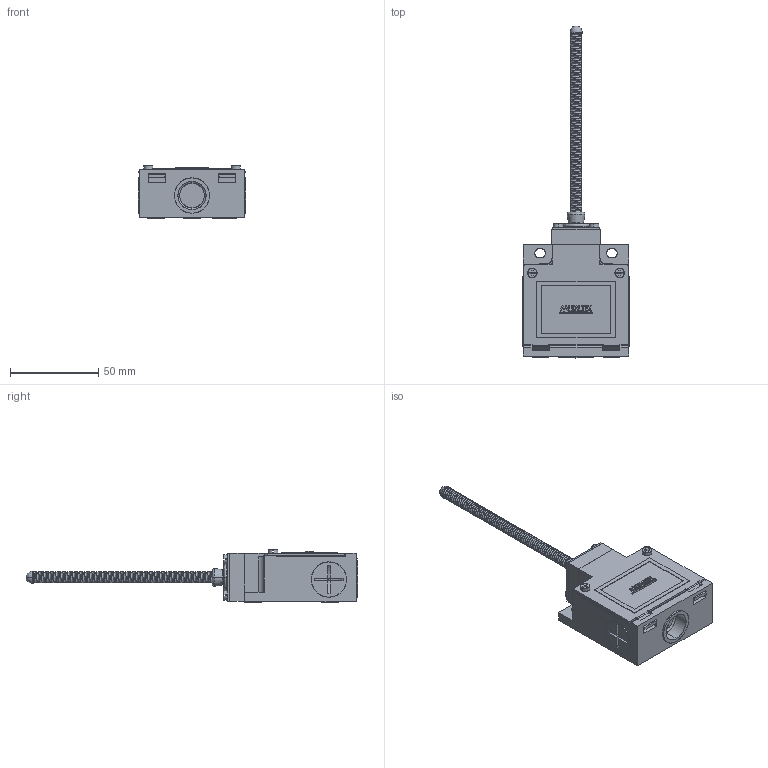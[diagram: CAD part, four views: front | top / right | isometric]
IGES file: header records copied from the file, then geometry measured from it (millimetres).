
Start section: SolidWorks IGES file using analytic representation for surfaces
Global section: file name: D:\X - Arquivos\PROEX\Empresas\P11 - METALTEX\01 - Produtos\IGES\Terceira remessa\TZE08.IGS; native system: SolidWorks 2012; preprocessor: SolidWorks 2012; author: Usuario; date: 180207.114024; units: millimetre
Bounding box: 61 x 188.55 x 30 mm (x, y, z)
Surface area: 23623.3 mm2 (no closed solid volume)
Topology: 0 solids, 0 shells, 398 faces, 3551 edges, 3550 vertices
Faces by surface type: bspline 327, revolution 71
